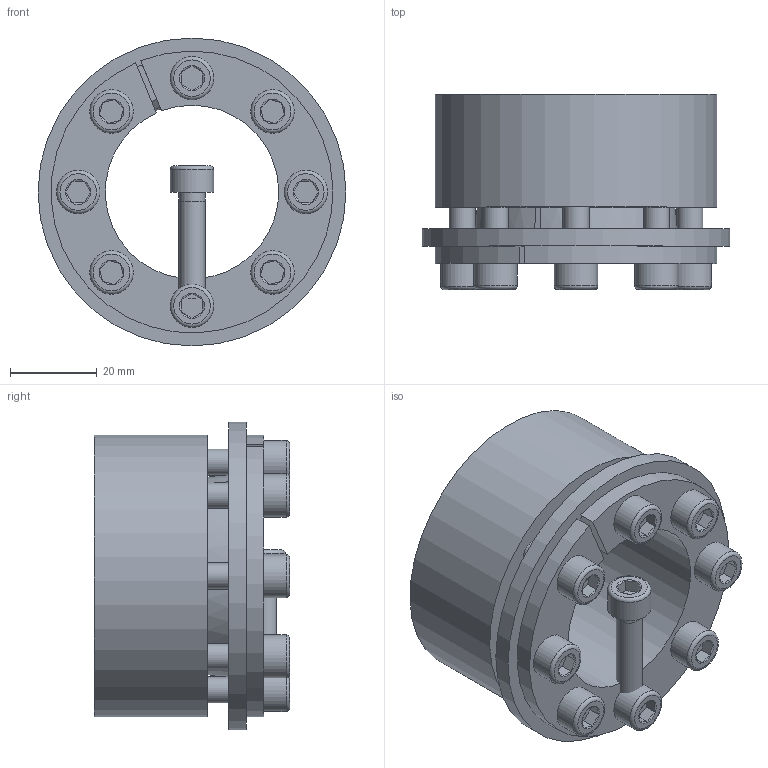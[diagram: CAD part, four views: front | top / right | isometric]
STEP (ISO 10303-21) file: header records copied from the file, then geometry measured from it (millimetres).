
FILE_DESCRIPTION( ( 'Unknown' ), '1' );
FILE_NAME( 'C:/Dokumente und Einstellungen/Sven/Desktop/homepage/cad - homepage/KBS71/KBS 71 - 40 x 65.stp', 'Unknown', ( 'Unknown' ), ( 'Unknown' ), 'XStep 1.0', 'Unknown', ' ' );
FILE_SCHEMA( ( 'automotive_design' ) );
Length unit declared in the file: millimetre
Products named in the file (3): Assem1; KBS 71 - 40 x 65; ISO EN DIN 4762 M6x25
Bounding box: 71 x 45 x 71 mm (x, y, z)
Volume: 141936.5 mm3; surface area: 60700 mm2
Topology: 11 solids, 11 shells, 305 faces, 667 edges, 400 vertices
Faces by surface type: plane 140, cylinder 76, cone 71, torus 18
Full cylindrical faces by diameter (mm): 5 x9, 6 x50, 10 x9, 71 x2
Entity records: 2351 total; most frequent: CARTESIAN_POINT 386, DIRECTION 351, ORIENTED_EDGE 280, AXIS2_PLACEMENT_3D 151, EDGE_CURVE 140, EDGE_LOOP 120, VERTEX_POINT 98, FACE_OUTER_BOUND 88
